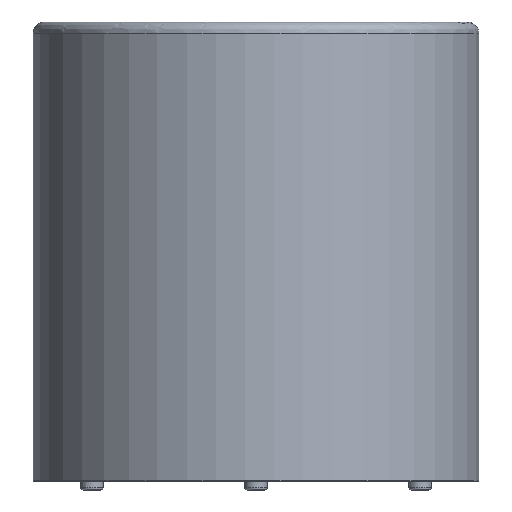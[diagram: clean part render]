
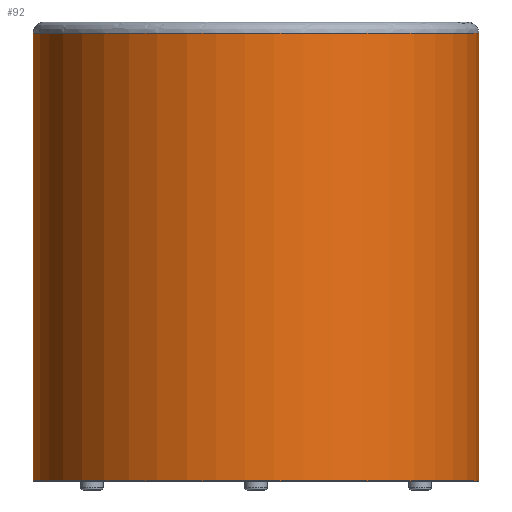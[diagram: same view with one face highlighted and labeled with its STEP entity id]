
A CAD part, front view. The second image highlights one B-rep face of the part: STEP entity #92.
In plain terms, the highlighted free-form (B-spline) face has degree [2, 1] with [9, 2] control points.
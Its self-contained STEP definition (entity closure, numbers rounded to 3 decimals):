
#92=ADVANCED_FACE('',(#121),#348,.T.);
#121=FACE_OUTER_BOUND('',#150,.T.);
#150=EDGE_LOOP('',(#182,#183,#184,#185));
#182=ORIENTED_EDGE('',*,*,#251,.F.);
#183=ORIENTED_EDGE('',*,*,#252,.T.);
#184=ORIENTED_EDGE('',*,*,#251,.T.);
#185=ORIENTED_EDGE('',*,*,#255,.F.);
#251=EDGE_CURVE('',#325,#327,#288,.T.);
#252=EDGE_CURVE('',#325,#325,#289,.T.);
#255=EDGE_CURVE('',#327,#327,#292,.T.);
#288=(
BOUNDED_CURVE()
B_SPLINE_CURVE(1,(#508,#509),.UNSPECIFIED.,.F.,.F.)
B_SPLINE_CURVE_WITH_KNOTS((2,2),(10.,411.5),.UNSPECIFIED.)
CURVE()
GEOMETRIC_REPRESENTATION_ITEM()
RATIONAL_B_SPLINE_CURVE((1.,1.))
REPRESENTATION_ITEM('')
);
#289=(
BOUNDED_CURVE()
B_SPLINE_CURVE(2,(#510,#511,#512,#513,#514,#515,#516,#517,#518),
 .UNSPECIFIED.,.T.,.F.)
B_SPLINE_CURVE_WITH_KNOTS((3,2,2,2,3),(0.,298.451,596.902,
895.353,1193.804),.UNSPECIFIED.)
CURVE()
GEOMETRIC_REPRESENTATION_ITEM()
RATIONAL_B_SPLINE_CURVE((1.,0.707,1.,0.707,1.,0.707,
1.,0.707,1.))
REPRESENTATION_ITEM('')
);
#292=(
BOUNDED_CURVE()
B_SPLINE_CURVE(2,(#531,#532,#533,#534,#535,#536,#537,#538,#539),
 .UNSPECIFIED.,.T.,.F.)
B_SPLINE_CURVE_WITH_KNOTS((3,2,2,2,3),(0.,313.374,626.747,
940.121,1253.494),.UNSPECIFIED.)
CURVE()
GEOMETRIC_REPRESENTATION_ITEM()
RATIONAL_B_SPLINE_CURVE((1.,0.707,1.,0.707,1.,0.707,
1.,0.707,1.))
REPRESENTATION_ITEM('')
);
#325=VERTEX_POINT('',#504);
#327=VERTEX_POINT('',#506);
#348=(
BOUNDED_SURFACE()
B_SPLINE_SURFACE(2,1,((#458,#459),(#460,#461),(#462,#463),(#464,#465),(#466,
#467),(#468,#469),(#470,#471),(#472,#473),(#474,#475)),.UNSPECIFIED.,.T.,
 .F.,.F.)
B_SPLINE_SURFACE_WITH_KNOTS((3,2,2,2,3),(2,2),(0.,314.159,628.319,
942.478,1256.637),(0.,412.),.UNSPECIFIED.)
GEOMETRIC_REPRESENTATION_ITEM()
RATIONAL_B_SPLINE_SURFACE(((1.,1.),(0.707,0.707),
(1.,1.),(0.707,0.707),(1.,1.),(0.707,
0.707),(1.,1.),(0.707,0.707),(1.,1.)))
REPRESENTATION_ITEM('')
SURFACE()
);
#458=CARTESIAN_POINT('',(200.,0.,420.));
#459=CARTESIAN_POINT('',(200.,0.,8.));
#460=CARTESIAN_POINT('',(200.,-200.,420.));
#461=CARTESIAN_POINT('',(200.,-200.,8.));
#462=CARTESIAN_POINT('',(0.,-200.,420.));
#463=CARTESIAN_POINT('',(0.,-200.,8.));
#464=CARTESIAN_POINT('',(-200.,-200.,420.));
#465=CARTESIAN_POINT('',(-200.,-200.,8.));
#466=CARTESIAN_POINT('',(-200.,0.,420.));
#467=CARTESIAN_POINT('',(-200.,0.,8.));
#468=CARTESIAN_POINT('',(-200.,200.,420.));
#469=CARTESIAN_POINT('',(-200.,200.,8.));
#470=CARTESIAN_POINT('',(0.,200.,420.));
#471=CARTESIAN_POINT('',(0.,200.,8.));
#472=CARTESIAN_POINT('',(200.,200.,420.));
#473=CARTESIAN_POINT('',(200.,200.,8.));
#474=CARTESIAN_POINT('',(200.,0.,420.));
#475=CARTESIAN_POINT('',(200.,0.,8.));
#504=CARTESIAN_POINT('',(200.,0.,410.));
#506=CARTESIAN_POINT('',(200.,0.,8.5));
#508=CARTESIAN_POINT('',(200.,0.,410.));
#509=CARTESIAN_POINT('',(200.,0.,8.5));
#510=CARTESIAN_POINT('',(200.,0.,410.));
#511=CARTESIAN_POINT('',(200.,-200.,410.));
#512=CARTESIAN_POINT('',(0.,-200.,410.));
#513=CARTESIAN_POINT('',(-200.,-200.,410.));
#514=CARTESIAN_POINT('',(-200.,0.,410.));
#515=CARTESIAN_POINT('',(-200.,200.,410.));
#516=CARTESIAN_POINT('',(0.,200.,410.));
#517=CARTESIAN_POINT('',(200.,200.,410.));
#518=CARTESIAN_POINT('',(200.,0.,410.));
#531=CARTESIAN_POINT('',(200.,0.,8.5));
#532=CARTESIAN_POINT('',(200.,-200.,8.5));
#533=CARTESIAN_POINT('',(0.,-200.,8.5));
#534=CARTESIAN_POINT('',(-200.,-200.,8.5));
#535=CARTESIAN_POINT('',(-200.,0.,8.5));
#536=CARTESIAN_POINT('',(-200.,200.,8.5));
#537=CARTESIAN_POINT('',(0.,200.,8.5));
#538=CARTESIAN_POINT('',(200.,200.,8.5));
#539=CARTESIAN_POINT('',(200.,0.,8.5));
